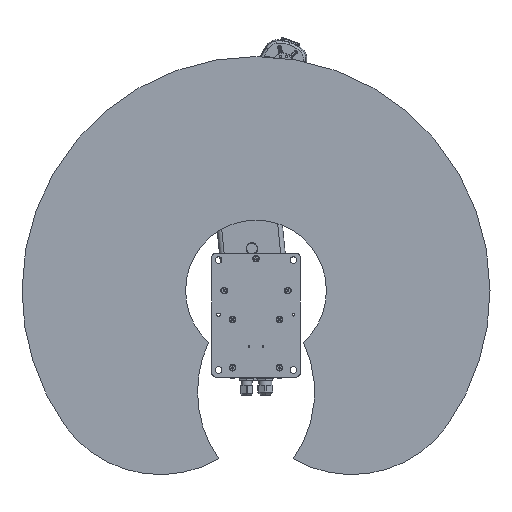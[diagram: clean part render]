
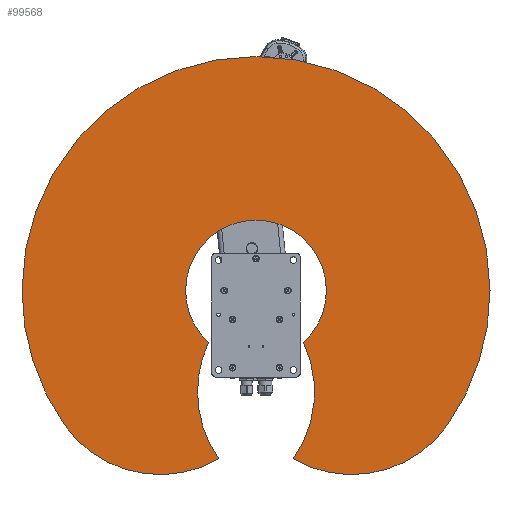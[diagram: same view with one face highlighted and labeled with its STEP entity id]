
A CAD part, front view. The second image highlights one B-rep face of the part: STEP entity #99568.
In plain terms, the highlighted planar face has unit normal (0, -1, 0).
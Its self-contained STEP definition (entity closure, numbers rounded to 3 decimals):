
#2925 = EDGE_CURVE ( 'NONE', #90389, #130145, #138034, .T. ) ;
#2950 = AXIS2_PLACEMENT_3D ( 'NONE', #111213, #32705, #124324 ) ;
#5169 = CIRCLE ( 'NONE', #112045, 500. ) ;
#5907 = DIRECTION ( 'NONE',  ( 0., -1., 0. ) ) ;
#7465 = VERTEX_POINT ( 'NONE', #19688 ) ;
#8968 = VERTEX_POINT ( 'NONE', #103765 ) ;
#9792 = AXIS2_PLACEMENT_3D ( 'NONE', #136240, #57820, #149339 ) ;
#10824 = DIRECTION ( 'NONE',  ( 0., 0., 1. ) ) ;
#13902 = ORIENTED_EDGE ( 'NONE', *, *, #18217, .F. ) ;
#15806 = AXIS2_PLACEMENT_3D ( 'NONE', #18878, #110491, #32005 ) ;
#17005 = DIRECTION ( 'NONE',  ( 0., -1., 0. ) ) ;
#18217 = EDGE_CURVE ( 'NONE', #144242, #90389, #72066, .T. ) ;
#18878 = CARTESIAN_POINT ( 'NONE',  ( 143.394, 5., 204.788 ) ) ;
#19688 = CARTESIAN_POINT ( 'NONE',  ( 359.9, 5., 79.788 ) ) ;
#20762 = AXIS2_PLACEMENT_3D ( 'NONE', #74678, #166164, #87901 ) ;
#22321 = CIRCLE ( 'NONE', #81760, 500. ) ;
#23858 = EDGE_CURVE ( 'NONE', #130145, #104837, #100753, .T. ) ;
#27459 = DIRECTION ( 'NONE',  ( 0., -1., 0. ) ) ;
#29053 = AXIS2_PLACEMENT_3D ( 'NONE', #36787, #145461, #67104 ) ;
#30769 = EDGE_CURVE ( 'NONE', #156287, #97112, #5169, .T. ) ;
#32005 = DIRECTION ( 'NONE',  ( 0., 0., 1. ) ) ;
#32705 = DIRECTION ( 'NONE',  ( 0., -1., 0. ) ) ;
#35230 = CIRCLE ( 'NONE', #9792, 500. ) ;
#36787 = CARTESIAN_POINT ( 'NONE',  ( 180.011, 5., -39.852 ) ) ;
#37788 = EDGE_CURVE ( 'NONE', #104837, #156287, #35230, .T. ) ;
#39878 = ORIENTED_EDGE ( 'NONE', *, *, #52847, .F. ) ;
#41244 = CIRCLE ( 'NONE', #107089, 250. ) ;
#42258 = EDGE_CURVE ( 'NONE', #109357, #7465, #109606, .T. ) ;
#48638 = ORIENTED_EDGE ( 'NONE', *, *, #37788, .F. ) ;
#50193 = CARTESIAN_POINT ( 'NONE',  ( 0., 5., 150.4 ) ) ;
#52847 = EDGE_CURVE ( 'NONE', #7465, #8968, #41244, .T. ) ;
#53391 = AXIS2_PLACEMENT_3D ( 'NONE', #95525, #17005, #108611 ) ;
#57820 = DIRECTION ( 'NONE',  ( 0., 1., 0. ) ) ;
#59382 = EDGE_CURVE ( 'NONE', #8968, #144336, #79856, .T. ) ;
#60992 = DIRECTION ( 'NONE',  ( 0., -1., 0. ) ) ;
#64195 = CARTESIAN_POINT ( 'NONE',  ( 286.788, 5., 409.576 ) ) ;
#65728 = DIRECTION ( 'NONE',  ( 0., 0., -1. ) ) ;
#67104 = DIRECTION ( 'NONE',  ( 0., 0., -1. ) ) ;
#67162 = EDGE_CURVE ( 'NONE', #144336, #102344, #95619, .T. ) ;
#67658 = EDGE_CURVE ( 'NONE', #102344, #144242, #75747, .T. ) ;
#72066 = CIRCLE ( 'NONE', #85533, 250. ) ;
#74678 = CARTESIAN_POINT ( 'NONE',  ( 143.394, 5., -204.788 ) ) ;
#74912 = ORIENTED_EDGE ( 'NONE', *, *, #23858, .F. ) ;
#75747 = CIRCLE ( 'NONE', #2950, 150.4 ) ;
#76216 = DIRECTION ( 'NONE',  ( 0., 1., 0. ) ) ;
#76399 = ORIENTED_EDGE ( 'NONE', *, *, #30769, .F. ) ;
#79856 = CIRCLE ( 'NONE', #142360, 150.4 ) ;
#81760 = AXIS2_PLACEMENT_3D ( 'NONE', #167582, #89317, #10824 ) ;
#84435 = CARTESIAN_POINT ( 'NONE',  ( 216.628, 5., 125.085 ) ) ;
#84809 = EDGE_CURVE ( 'NONE', #97112, #109357, #22321, .T. ) ;
#85533 = AXIS2_PLACEMENT_3D ( 'NONE', #84435, #5907, #97630 ) ;
#87901 = DIRECTION ( 'NONE',  ( 0., 0., 1. ) ) ;
#88802 = FACE_OUTER_BOUND ( 'NONE', #110654, .T. ) ;
#89317 = DIRECTION ( 'NONE',  ( 0., 1., 0. ) ) ;
#90389 = VERTEX_POINT ( 'NONE', #125613 ) ;
#92438 = CARTESIAN_POINT ( 'NONE',  ( 0., 5., -500. ) ) ;
#95525 = CARTESIAN_POINT ( 'NONE',  ( 0., 5., 0. ) ) ;
#95619 = CIRCLE ( 'NONE', #53391, 150.4 ) ;
#96800 = DIRECTION ( 'NONE',  ( 0., -1., 0. ) ) ;
#97112 = VERTEX_POINT ( 'NONE', #99123 ) ;
#97630 = DIRECTION ( 'NONE',  ( 0., 0., -1. ) ) ;
#99123 = CARTESIAN_POINT ( 'NONE',  ( 0., 5., 500. ) ) ;
#99568 = ADVANCED_FACE ( 'NONE', ( #88802 ), #132303, .T. ) ;
#100753 = CIRCLE ( 'NONE', #20762, 250. ) ;
#102344 = VERTEX_POINT ( 'NONE', #154321 ) ;
#103765 = CARTESIAN_POINT ( 'NONE',  ( 110.987, 5., 101.499 ) ) ;
#104837 = VERTEX_POINT ( 'NONE', #152508 ) ;
#105976 = CARTESIAN_POINT ( 'NONE',  ( 0., 5., 0. ) ) ;
#107089 = AXIS2_PLACEMENT_3D ( 'NONE', #139405, #60992, #152575 ) ;
#108611 = DIRECTION ( 'NONE',  ( 0., 0., 1. ) ) ;
#109357 = VERTEX_POINT ( 'NONE', #64195 ) ;
#109606 = CIRCLE ( 'NONE', #15806, 250. ) ;
#110491 = DIRECTION ( 'NONE',  ( 0., 1., 0. ) ) ;
#110654 = EDGE_LOOP ( 'NONE', ( #13902, #136897, #126091, #110712, #39878, #135704, #150508, #76399, #48638, #74912, #111883 ) ) ;
#110712 = ORIENTED_EDGE ( 'NONE', *, *, #59382, .F. ) ;
#111213 = CARTESIAN_POINT ( 'NONE',  ( 0., 5., 0. ) ) ;
#111883 = ORIENTED_EDGE ( 'NONE', *, *, #2925, .F. ) ;
#112045 = AXIS2_PLACEMENT_3D ( 'NONE', #154576, #76216, #167699 ) ;
#119051 = DIRECTION ( 'NONE',  ( 0., 0., 1. ) ) ;
#119241 = AXIS2_PLACEMENT_3D ( 'NONE', #168755, #96800, #65728 ) ;
#124324 = DIRECTION ( 'NONE',  ( 0., 0., 1. ) ) ;
#125146 = CARTESIAN_POINT ( 'NONE',  ( 110.987, 5., -101.499 ) ) ;
#125613 = CARTESIAN_POINT ( 'NONE',  ( 216.628, 5., -124.915 ) ) ;
#126091 = ORIENTED_EDGE ( 'NONE', *, *, #67162, .F. ) ;
#127326 = CARTESIAN_POINT ( 'NONE',  ( 359.9, 5., -79.788 ) ) ;
#130145 = VERTEX_POINT ( 'NONE', #127326 ) ;
#132303 = PLANE ( 'NONE',  #29053 ) ;
#135704 = ORIENTED_EDGE ( 'NONE', *, *, #42258, .F. ) ;
#136240 = CARTESIAN_POINT ( 'NONE',  ( 0., 5., 0. ) ) ;
#136897 = ORIENTED_EDGE ( 'NONE', *, *, #67658, .F. ) ;
#138034 = CIRCLE ( 'NONE', #119241, 250. ) ;
#139405 = CARTESIAN_POINT ( 'NONE',  ( 216.628, 5., -125.085 ) ) ;
#142360 = AXIS2_PLACEMENT_3D ( 'NONE', #105976, #27459, #119051 ) ;
#144242 = VERTEX_POINT ( 'NONE', #125146 ) ;
#144336 = VERTEX_POINT ( 'NONE', #50193 ) ;
#145461 = DIRECTION ( 'NONE',  ( 0., -1., 0. ) ) ;
#149339 = DIRECTION ( 'NONE',  ( 0., 0., 1. ) ) ;
#150508 = ORIENTED_EDGE ( 'NONE', *, *, #84809, .F. ) ;
#152508 = CARTESIAN_POINT ( 'NONE',  ( 286.788, 5., -409.576 ) ) ;
#152575 = DIRECTION ( 'NONE',  ( 0., 0., 1. ) ) ;
#154321 = CARTESIAN_POINT ( 'NONE',  ( 0., 5., -150.4 ) ) ;
#154576 = CARTESIAN_POINT ( 'NONE',  ( 0., 5., 0. ) ) ;
#156287 = VERTEX_POINT ( 'NONE', #92438 ) ;
#166164 = DIRECTION ( 'NONE',  ( 0., 1., 0. ) ) ;
#167582 = CARTESIAN_POINT ( 'NONE',  ( 0., 5., 0. ) ) ;
#167699 = DIRECTION ( 'NONE',  ( 0., 0., 1. ) ) ;
#168755 = CARTESIAN_POINT ( 'NONE',  ( 216.628, 5., 125.085 ) ) ;
